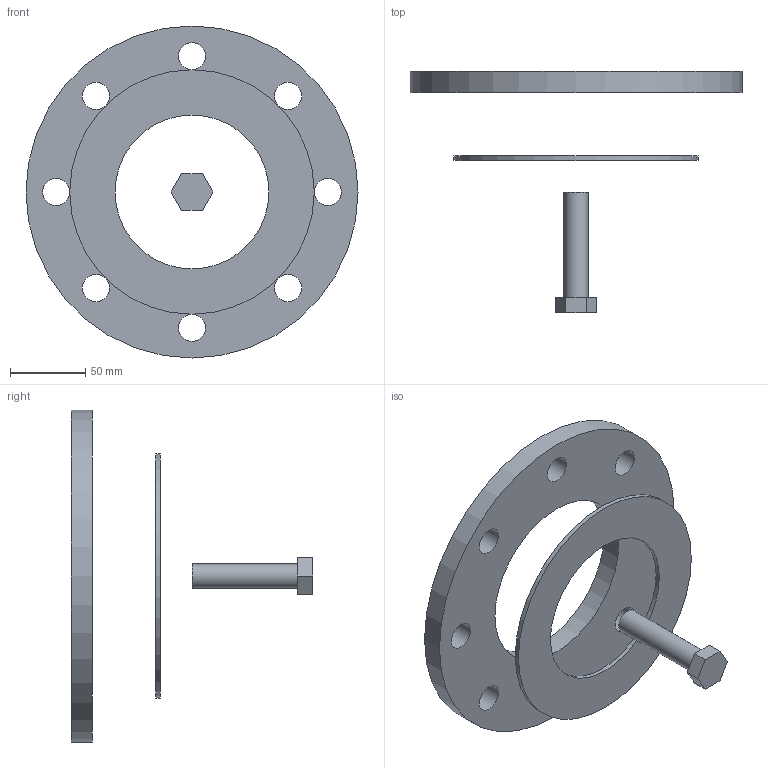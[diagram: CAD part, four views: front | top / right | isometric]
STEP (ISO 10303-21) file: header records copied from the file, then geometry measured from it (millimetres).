
FILE_DESCRIPTION( ( 'STEP AP214' ), '1' );
FILE_NAME( 'C:/Users/ilukic/Documents/ex/gebaudeentwasserung/pe/Geberit PE flange set/367746.stp', '2020-03-26T18:42:21', ( '' ), ( '' ), ' ', 'PARTsolutions', ' ' );
FILE_SCHEMA( ( 'AUTOMOTIVE_DESIGN { 1 0 10303 214 1 1 1 1 }' ) );
Length unit declared in the file: millimetre
Products named in the file (4): 367746; _367746_flange1; _367746_flange2; _367746_bolt
Assembly tree (3 placements, depth 2):
  367746
    _367746_flange1
    _367746_flange2
    _367746_bolt
Bounding box: 220 x 160 x 220 mm (x, y, z)
Volume: 412113.6 mm3; surface area: 104647.1 mm2
Topology: 3 solids, 3 shells, 26 faces, 58 edges, 39 vertices
Faces by surface type: plane 13, cylinder 13
Full cylindrical faces by diameter (mm): 16 x1, 18 x8, 102 x1, 116 x1, 162 x1, 220 x1
Entity records: 980 total; most frequent: DIRECTION 130, CARTESIAN_POINT 112, ORIENTED_EDGE 88, EDGE_LOOP 60, AXIS2_PLACEMENT_3D 56, EDGE_CURVE 44, FACE_OUTER_BOUND 39, VERTEX_POINT 38
